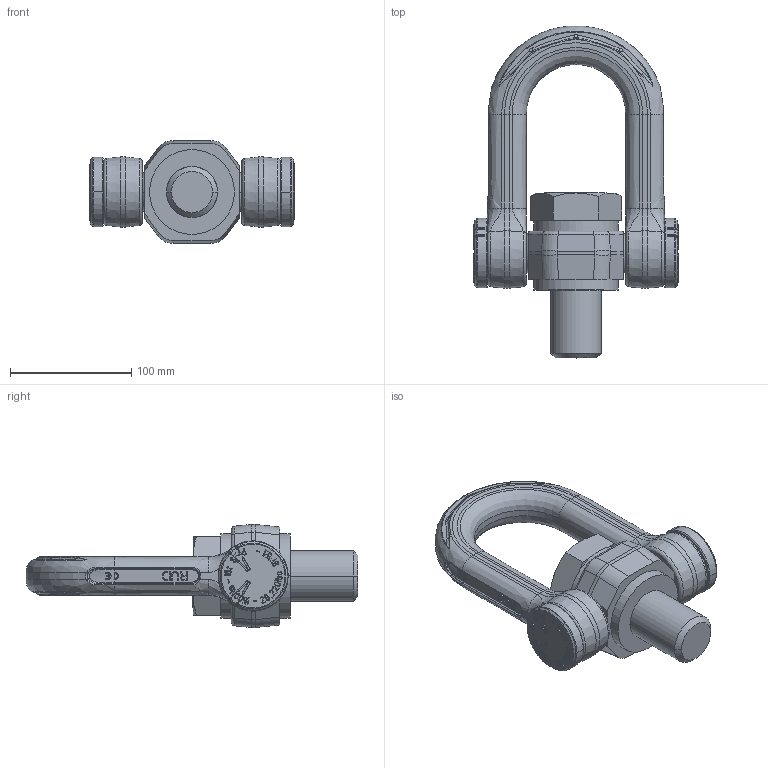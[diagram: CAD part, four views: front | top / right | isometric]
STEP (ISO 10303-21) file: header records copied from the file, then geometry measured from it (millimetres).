
FILE_DESCRIPTION((''),'2;1');
FILE_NAME('001-M36070-P-1_ASM','2021-02-03T',('anja.joas'),(''),'PRO/ENGINEER BY PARAMETRIC TECHNOLOGY CORPORATION, 2011490','PRO/ENGINEER BY PARAMETRIC TECHNOLOGY CORPORATION, 2011490','');
FILE_SCHEMA(('CONFIG_CONTROL_DESIGN'));
Products named in the file (5): 001-M36070-P-10_AF0; 001-M36070-P-17_AF0; 001-M36070-P-6; 001-M31125-P-8; 001-M36070-P-1_ASM
Assembly tree (5 placements, depth 2):
  001-M36070-P-1_ASM
    001-M36070-P-10_AF0
    001-M36070-P-17_AF0
    001-M36070-P-6  x2
    001-M31125-P-8
Bounding box: 168.8 x 273.75 x 85 mm (x, y, z)
Volume: 959726.6 mm3; surface area: 139178.4 mm2
Topology: 5 solids, 5 shells, 2566 faces, 6984 edges, 4537 vertices
Faces by surface type: plane 2004, bspline 373, cylinder 121, torus 36, cone 32
Entity records: 65194 total; most frequent: CARTESIAN_POINT 27015, ORIENTED_EDGE 8586, DIRECTION 6657, EDGE_CURVE 4293, VECTOR 3439, LINE 3439, VERTEX_POINT 2775, EDGE_LOOP 1668
